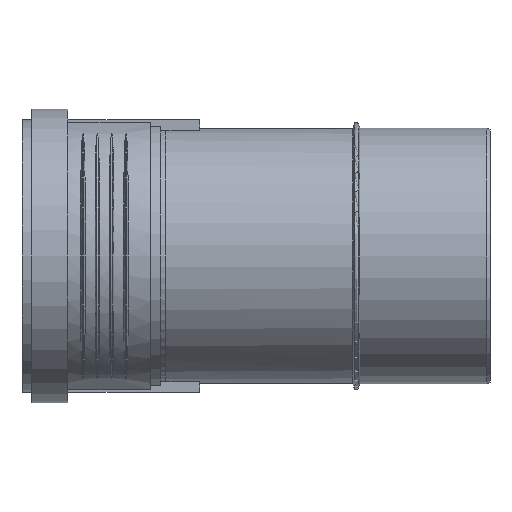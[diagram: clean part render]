
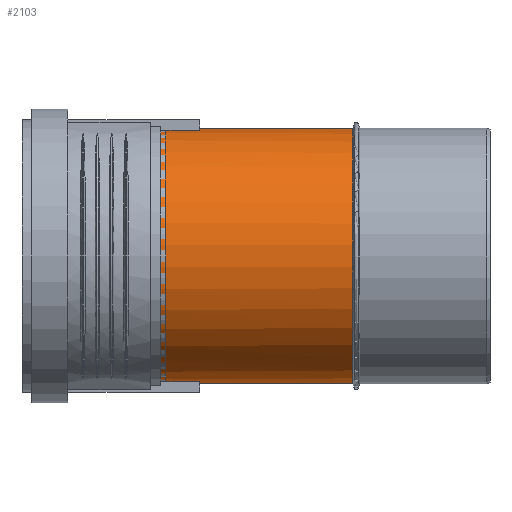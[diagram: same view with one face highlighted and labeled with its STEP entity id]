
A CAD part, left-side view. The second image highlights one B-rep face of the part: STEP entity #2103.
In plain terms, the highlighted cylindrical face has radius 80.125 mm (diameter 160.25 mm), a partial arc.
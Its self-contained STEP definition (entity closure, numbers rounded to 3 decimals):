
#268=CYLINDRICAL_SURFACE($,#2248,80.125);
#499=B_SPLINE_CURVE_WITH_KNOTS($,3,(#3143,#3144,#3145,#3146,#3147,#3148,
#3149,#3150,#3151,#3152,#3153,#3154,#3155,#3156,#3157,#3158,#3159,#3160,
#3161,#3162,#3163,#3164,#3165,#3166,#3167,#3168,#3169,#3170,#3171,#3172,
#3173,#3174,#3175),.UNSPECIFIED.,.F.,.F.,(4,2,2,2,2,2,2,2,3,2,2,2,2,2,2,
4),(31.452,31.513,32.753,33.992,
35.232,36.487,37.743,38.998,40.253,
41.549,42.845,44.141,45.437,46.678,
47.918,48.224),.UNSPECIFIED.);
#500=B_SPLINE_CURVE_WITH_KNOTS($,3,(#3178,#3179,#3180,#3181),
 .UNSPECIFIED.,.F.,.F.,(4,4),(3.785,3.848),
 .UNSPECIFIED.);
#501=B_SPLINE_CURVE_WITH_KNOTS($,3,(#3185,#3186,#3187,#3188),
 .UNSPECIFIED.,.F.,.F.,(4,4),(8.144,8.207),
 .UNSPECIFIED.);
#502=B_SPLINE_CURVE_WITH_KNOTS($,3,(#3189,#3190,#3191,#3192,#3193,#3194,
#3195,#3196,#3197,#3198,#3199,#3200,#3201,#3202,#3203,#3204,#3205,#3206,
#3207,#3208,#3209,#3210,#3211,#3212,#3213,#3214,#3215,#3216,#3217,#3218,
#3219,#3220),.UNSPECIFIED.,.F.,.F.,(4,2,2,2,2,2,2,2,2,2,2,2,2,2,2,4),(12.322,
12.628,13.869,15.109,16.405,17.701,
18.997,20.293,21.548,22.804,24.059,
25.314,26.554,27.794,29.033,29.094),
 .UNSPECIFIED.);
#611=FACE_OUTER_BOUND($,#737,.T.);
#737=EDGE_LOOP($,(#1531,#1532,#1533,#1534,#1535,#1536));
#913=CIRCLE($,#2242,80.125);
#916=CIRCLE($,#2249,80.125);
#1016=VERTEX_POINT($,#3112);
#1018=VERTEX_POINT($,#3126);
#1020=VERTEX_POINT($,#3141);
#1021=VERTEX_POINT($,#3177);
#1022=VERTEX_POINT($,#3182);
#1023=VERTEX_POINT($,#3184);
#1232=EDGE_CURVE($,#1016,#1018,#913,.T.);
#1235=EDGE_CURVE($,#1018,#1020,#499,.T.);
#1236=EDGE_CURVE($,#1020,#1021,#500,.T.);
#1237=EDGE_CURVE($,#1021,#1022,#916,.T.);
#1238=EDGE_CURVE($,#1022,#1023,#501,.T.);
#1239=EDGE_CURVE($,#1023,#1016,#502,.T.);
#1531=ORIENTED_EDGE($,*,*,#1232,.T.);
#1532=ORIENTED_EDGE($,*,*,#1235,.T.);
#1533=ORIENTED_EDGE($,*,*,#1236,.T.);
#1534=ORIENTED_EDGE($,*,*,#1237,.T.);
#1535=ORIENTED_EDGE($,*,*,#1238,.T.);
#1536=ORIENTED_EDGE($,*,*,#1239,.T.);
#2103=ADVANCED_FACE($,(#611),#268,.T.);
#2242=AXIS2_PLACEMENT_3D($,#3135,#2495,#2496);
#2248=AXIS2_PLACEMENT_3D($,#3176,#2507,#2508);
#2249=AXIS2_PLACEMENT_3D($,#3183,#2509,#2510);
#2495=DIRECTION('center_axis',(0.,1.,0.));
#2496=DIRECTION('ref_axis',(1.,0.,0.));
#2507=DIRECTION('center_axis',(0.,1.,0.));
#2508=DIRECTION('ref_axis',(1.,0.,0.));
#2509=DIRECTION('center_axis',(0.,-1.,0.));
#2510=DIRECTION('ref_axis',(1.,0.,0.));
#3112=CARTESIAN_POINT('',(79.238,86.1,-11.887));
#3126=CARTESIAN_POINT('',(79.238,86.1,11.887));
#3135=CARTESIAN_POINT('Origin',(0.,86.1,0.));
#3141=CARTESIAN_POINT('',(77.161,206.343,21.591));
#3143=CARTESIAN_POINT('Ctrl Pts',(79.238,86.1,11.887));
#3144=CARTESIAN_POINT('Ctrl Pts',(79.208,86.138,12.09));
#3145=CARTESIAN_POINT('Ctrl Pts',(79.177,86.177,12.293));
#3146=CARTESIAN_POINT('Ctrl Pts',(78.49,87.033,16.64));
#3147=CARTESIAN_POINT('Ctrl Pts',(77.509,88.264,20.708));
#3148=CARTESIAN_POINT('Ctrl Pts',(75.027,91.445,28.413));
#3149=CARTESIAN_POINT('Ctrl Pts',(73.526,93.399,32.058));
#3150=CARTESIAN_POINT('Ctrl Pts',(70.239,97.836,38.734));
#3151=CARTESIAN_POINT('Ctrl Pts',(68.454,100.32,41.765));
#3152=CARTESIAN_POINT('Ctrl Pts',(64.879,105.574,47.13));
#3153=CARTESIAN_POINT('Ctrl Pts',(62.949,108.547,49.659));
#3154=CARTESIAN_POINT('Ctrl Pts',(59.139,115.032,54.141));
#3155=CARTESIAN_POINT('Ctrl Pts',(57.26,118.543,56.094));
#3156=CARTESIAN_POINT('Ctrl Pts',(53.955,125.968,59.281));
#3157=CARTESIAN_POINT('Ctrl Pts',(52.53,129.89,60.517));
#3158=CARTESIAN_POINT('Ctrl Pts',(50.554,137.984,62.177));
#3159=CARTESIAN_POINT('Ctrl Pts',(50.013,142.159,62.6));
#3160=CARTESIAN_POINT('Ctrl Pts',(50.013,146.344,62.6));
#3161=CARTESIAN_POINT('Ctrl Pts',(50.013,150.664,62.6));
#3162=CARTESIAN_POINT('Ctrl Pts',(50.586,154.966,62.151));
#3163=CARTESIAN_POINT('Ctrl Pts',(52.625,163.33,60.435));
#3164=CARTESIAN_POINT('Ctrl Pts',(54.079,167.395,59.168));
#3165=CARTESIAN_POINT('Ctrl Pts',(57.43,175.129,55.922));
#3166=CARTESIAN_POINT('Ctrl Pts',(59.325,178.804,53.939));
#3167=CARTESIAN_POINT('Ctrl Pts',(63.159,185.622,49.394));
#3168=CARTESIAN_POINT('Ctrl Pts',(65.098,188.763,46.83));
#3169=CARTESIAN_POINT('Ctrl Pts',(68.637,194.251,41.459));
#3170=CARTESIAN_POINT('Ctrl Pts',(70.381,196.825,38.47));
#3171=CARTESIAN_POINT('Ctrl Pts',(73.602,201.448,31.878));
#3172=CARTESIAN_POINT('Ctrl Pts',(75.078,203.497,28.273));
#3173=CARTESIAN_POINT('Ctrl Pts',(76.604,205.585,23.513));
#3174=CARTESIAN_POINT('Ctrl Pts',(76.891,205.976,22.558));
#3175=CARTESIAN_POINT('Ctrl Pts',(77.161,206.343,21.591));
#3176=CARTESIAN_POINT('Origin',(0.,0.,0.));
#3177=CARTESIAN_POINT('',(77.321,206.56,21.013));
#3178=CARTESIAN_POINT('Ctrl Pts',(77.161,206.343,21.591));
#3179=CARTESIAN_POINT('Ctrl Pts',(77.215,206.417,21.399));
#3180=CARTESIAN_POINT('Ctrl Pts',(77.268,206.489,21.206));
#3181=CARTESIAN_POINT('Ctrl Pts',(77.321,206.56,21.013));
#3182=CARTESIAN_POINT('',(77.321,206.56,-21.013));
#3183=CARTESIAN_POINT('Origin',(0.,206.56,0.));
#3184=CARTESIAN_POINT('',(77.161,206.343,-21.591));
#3185=CARTESIAN_POINT('Ctrl Pts',(77.321,206.56,-21.013));
#3186=CARTESIAN_POINT('Ctrl Pts',(77.268,206.489,-21.206));
#3187=CARTESIAN_POINT('Ctrl Pts',(77.215,206.417,-21.399));
#3188=CARTESIAN_POINT('Ctrl Pts',(77.161,206.343,-21.591));
#3189=CARTESIAN_POINT('Ctrl Pts',(77.161,206.343,-21.591));
#3190=CARTESIAN_POINT('Ctrl Pts',(76.891,205.976,-22.558));
#3191=CARTESIAN_POINT('Ctrl Pts',(76.604,205.585,-23.513));
#3192=CARTESIAN_POINT('Ctrl Pts',(75.078,203.497,-28.273));
#3193=CARTESIAN_POINT('Ctrl Pts',(73.602,201.448,-31.878));
#3194=CARTESIAN_POINT('Ctrl Pts',(70.381,196.825,-38.47));
#3195=CARTESIAN_POINT('Ctrl Pts',(68.637,194.251,-41.459));
#3196=CARTESIAN_POINT('Ctrl Pts',(65.098,188.763,-46.83));
#3197=CARTESIAN_POINT('Ctrl Pts',(63.159,185.622,-49.394));
#3198=CARTESIAN_POINT('Ctrl Pts',(59.325,178.804,-53.939));
#3199=CARTESIAN_POINT('Ctrl Pts',(57.43,175.129,-55.922));
#3200=CARTESIAN_POINT('Ctrl Pts',(54.079,167.395,-59.168));
#3201=CARTESIAN_POINT('Ctrl Pts',(52.625,163.33,-60.435));
#3202=CARTESIAN_POINT('Ctrl Pts',(50.586,154.966,-62.151));
#3203=CARTESIAN_POINT('Ctrl Pts',(50.013,150.664,-62.6));
#3204=CARTESIAN_POINT('Ctrl Pts',(50.013,142.159,-62.6));
#3205=CARTESIAN_POINT('Ctrl Pts',(50.554,137.984,-62.177));
#3206=CARTESIAN_POINT('Ctrl Pts',(52.53,129.89,-60.517));
#3207=CARTESIAN_POINT('Ctrl Pts',(53.955,125.968,-59.281));
#3208=CARTESIAN_POINT('Ctrl Pts',(57.26,118.543,-56.094));
#3209=CARTESIAN_POINT('Ctrl Pts',(59.139,115.032,-54.141));
#3210=CARTESIAN_POINT('Ctrl Pts',(62.949,108.547,-49.659));
#3211=CARTESIAN_POINT('Ctrl Pts',(64.879,105.574,-47.13));
#3212=CARTESIAN_POINT('Ctrl Pts',(68.454,100.32,-41.765));
#3213=CARTESIAN_POINT('Ctrl Pts',(70.239,97.836,-38.734));
#3214=CARTESIAN_POINT('Ctrl Pts',(73.526,93.399,-32.058));
#3215=CARTESIAN_POINT('Ctrl Pts',(75.027,91.445,-28.413));
#3216=CARTESIAN_POINT('Ctrl Pts',(77.509,88.264,-20.708));
#3217=CARTESIAN_POINT('Ctrl Pts',(78.49,87.033,-16.64));
#3218=CARTESIAN_POINT('Ctrl Pts',(79.177,86.177,-12.293));
#3219=CARTESIAN_POINT('Ctrl Pts',(79.208,86.138,-12.09));
#3220=CARTESIAN_POINT('Ctrl Pts',(79.238,86.1,-11.887));
